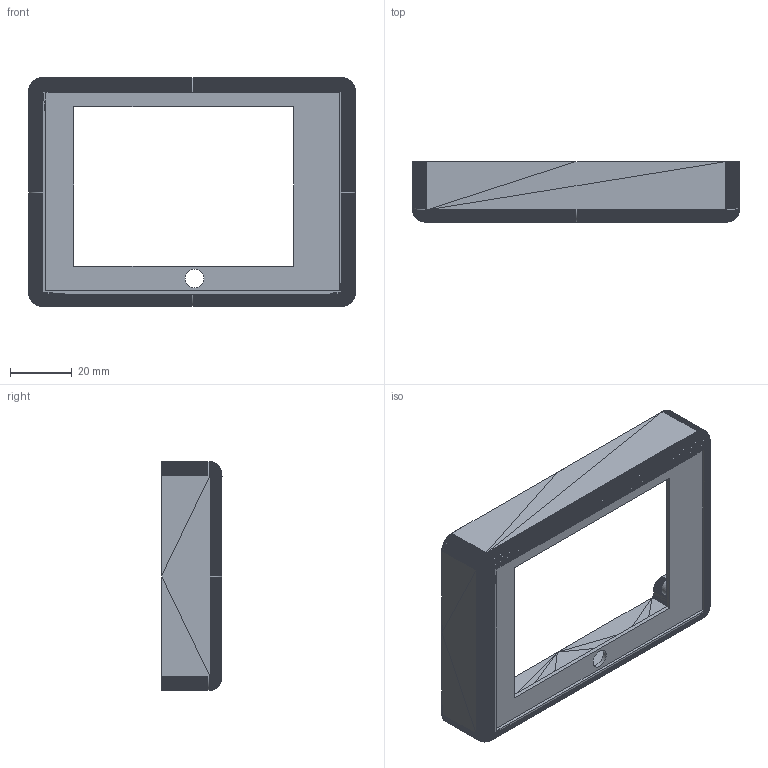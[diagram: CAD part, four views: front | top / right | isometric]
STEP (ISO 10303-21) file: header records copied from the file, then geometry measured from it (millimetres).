
FILE_DESCRIPTION(('FreeCAD Model'),'2;1');
FILE_NAME('E:/TOOLS/Misc/FCall3/CAD/TFT28_enclosure/SERVER_TOP.step', '2018-12-05T09:49:58',(''),(''),'Open CASCADE STEP processor 7.2', 'FreeCAD','Unknown');
FILE_SCHEMA(('AUTOMOTIVE_DESIGN { 1 0 10303 214 1 1 1 1 }'));
Products named in the file (1): SERVER_TOP
Bounding box: 105.54 x 19.6 x 73.93 mm (x, y, z)
Volume: 22779.2 mm3; surface area: 21525.2 mm2
Topology: 1 solids, 1 shells, 15167 faces, 24829 edges, 9666 vertices
Faces by surface type: bspline 15119, plane 41, cylinder 7
Full cylindrical faces by diameter (mm): 2 x3, 6 x4
Entity records: 395965 total; most frequent: CARTESIAN_POINT 119758, ORIENTED_EDGE 49658, EDGE_CURVE 24829, B_SPLINE_CURVE_WITH_KNOTS 24738, FACE_BOUND 15181, EDGE_LOOP 15181, ADVANCED_FACE 15167, STYLED_ITEM 15167
